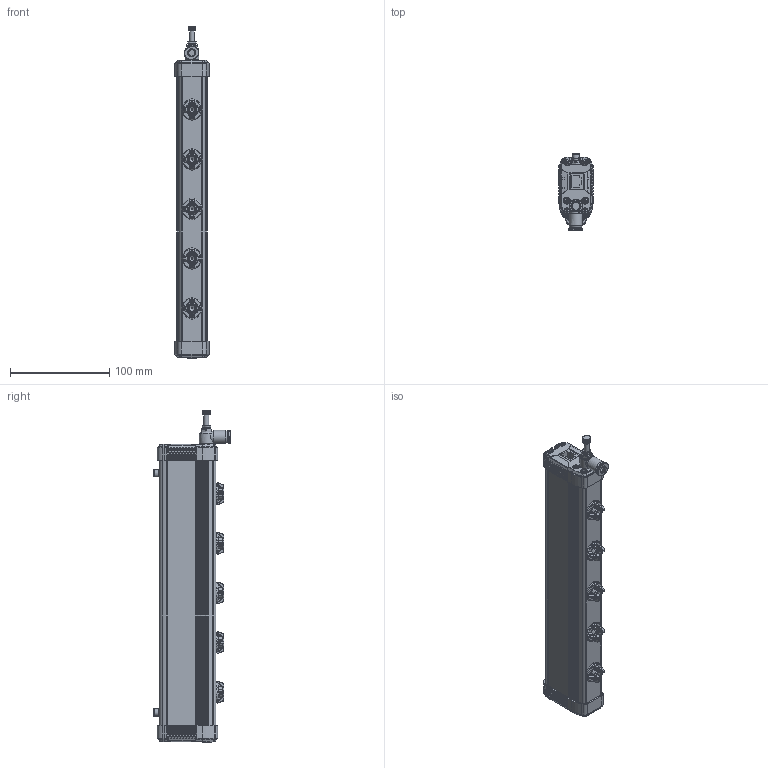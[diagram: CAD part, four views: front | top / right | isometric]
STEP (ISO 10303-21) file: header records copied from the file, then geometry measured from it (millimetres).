
FILE_DESCRIPTION(/* description */ (''),/* implementation_level */ '2;1');
FILE_NAME(/* name */ '智能静电棒 300mm.stp',/* time_stamp */ '2026-06-13T12:09:06+08:00',/* author */ (''),/* organization */ (''),/* preprocessor_version */ 'ST-DEVELOPER v16',/* originating_system */ 'SIEMENS PLM Software NX 11.0',/* authorisation */ '');
FILE_SCHEMA (('AUTOMOTIVE_DESIGN { 1 0 10303 214 3 1 1 1 }'));
Products named in the file (1): 070C584Cjy4g
Bounding box: 34.6 x 77.22 x 334.5 mm (x, y, z)
Volume: 219380.4 mm3; surface area: 220662.6 mm2
Topology: 43 solids, 43 shells, 3827 faces, 10197 edges, 6561 vertices
Faces by surface type: plane 1645, cylinder 1303, bspline 343, cone 342, torus 160, sphere 20, revolution 12, extrusion 2
Full cylindrical faces by diameter (mm): 0.2 x20, 0.5 x6, 1 x20, 1.45 x5, 1.5 x5, 2.4 x2, 2.5 x1, 2.99 x12, 3 x9, 3.2 x12, 4 x7, 5 x7, 6 x10, 6.5 x1, 7.4 x2, 7.5 x1, 7.8 x1, 8 x1, 10 x4, 10.7 x5, 11 x6, 11.2 x1, 13.2 x1, 14 x1
Entity records: 168722 total; most frequent: CARTESIAN_POINT 50975, ORIENTED_EDGE 19458, DIRECTION 18978, EDGE_CURVE 9729, AXIS2_PLACEMENT_3D 7166, VERTEX_POINT 6416, VECTOR 4634, LINE 4632
